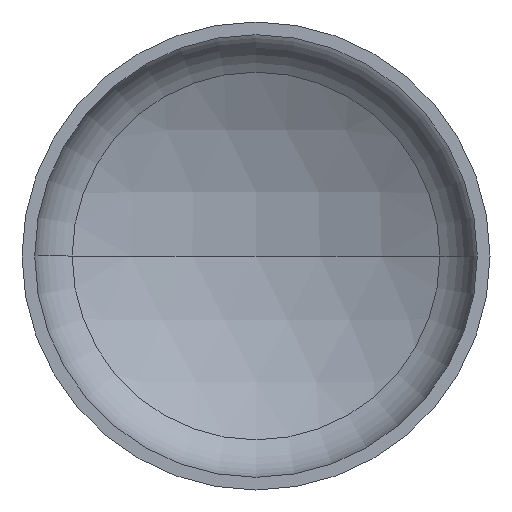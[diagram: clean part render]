
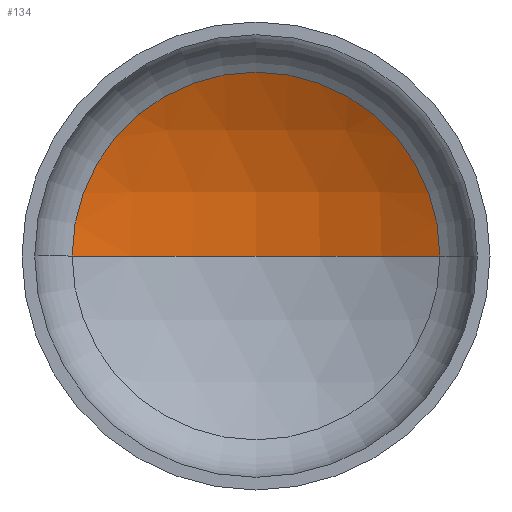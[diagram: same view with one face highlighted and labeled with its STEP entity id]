
A CAD part, front view. The second image highlights one B-rep face of the part: STEP entity #134.
In plain terms, the highlighted spherical face has radius 560 mm.
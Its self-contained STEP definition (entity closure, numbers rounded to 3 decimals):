
#1 = VERTEX_POINT ( 'NONE', #243 ) ;
#2 = VERTEX_POINT ( 'NONE', #242 ) ;
#11 = AXIS2_PLACEMENT_3D ( 'NONE', #387, #175, #347 ) ;
#12 = EDGE_LOOP ( 'NONE', ( #119, #101, #73 ) ) ;
#30 = AXIS2_PLACEMENT_3D ( 'NONE', #288, #409, #173 ) ;
#73 = ORIENTED_EDGE ( 'NONE', *, *, #330, .T. ) ;
#89 = AXIS2_PLACEMENT_3D ( 'NONE', #346, #363, #280 ) ;
#96 = VERTEX_POINT ( 'NONE', #224 ) ;
#101 = ORIENTED_EDGE ( 'NONE', *, *, #374, .T. ) ;
#119 = ORIENTED_EDGE ( 'NONE', *, *, #371, .F. ) ;
#134 = ADVANCED_FACE ( 'NONE', ( #207 ), #144, .F. ) ;
#144 = SPHERICAL_SURFACE ( 'NONE', #89, 560. ) ;
#155 = DIRECTION ( 'NONE',  ( 0., 0., 1. ) ) ;
#173 = DIRECTION ( 'NONE',  ( 1., 0., 0. ) ) ;
#175 = DIRECTION ( 'NONE',  ( 0., 0., -1. ) ) ;
#207 = FACE_OUTER_BOUND ( 'NONE', #12, .T. ) ;
#212 = CIRCLE ( 'NONE', #11, 560. ) ;
#224 = CARTESIAN_POINT ( 'NONE',  ( -275.022, 155.821, 0. ) ) ;
#242 = CARTESIAN_POINT ( 'NONE',  ( 0., 228.006, 0. ) ) ;
#243 = CARTESIAN_POINT ( 'NONE',  ( 275.022, 155.821, 0. ) ) ;
#280 = DIRECTION ( 'NONE',  ( -1., 0., 0. ) ) ;
#287 = CIRCLE ( 'NONE', #30, 275.022 ) ;
#288 = CARTESIAN_POINT ( 'NONE',  ( 0., 155.821, 0. ) ) ;
#295 = CARTESIAN_POINT ( 'NONE',  ( 0., -331.994, 0. ) ) ;
#330 = EDGE_CURVE ( 'NONE', #1, #96, #287, .T. ) ;
#342 = CIRCLE ( 'NONE', #352, 560. ) ;
#346 = CARTESIAN_POINT ( 'NONE',  ( 0., -331.994, 0. ) ) ;
#347 = DIRECTION ( 'NONE',  ( -1., 0., 0. ) ) ;
#352 = AXIS2_PLACEMENT_3D ( 'NONE', #295, #155, #370 ) ;
#363 = DIRECTION ( 'NONE',  ( 0., 0., -1. ) ) ;
#370 = DIRECTION ( 'NONE',  ( 1., 0., 0. ) ) ;
#371 = EDGE_CURVE ( 'NONE', #2, #96, #342, .T. ) ;
#374 = EDGE_CURVE ( 'NONE', #2, #1, #212, .T. ) ;
#387 = CARTESIAN_POINT ( 'NONE',  ( 0., -331.994, 0. ) ) ;
#409 = DIRECTION ( 'NONE',  ( 0., -1., 0. ) ) ;
